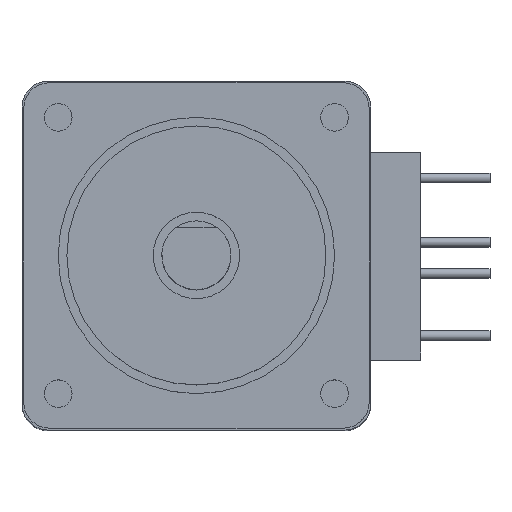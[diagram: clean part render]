
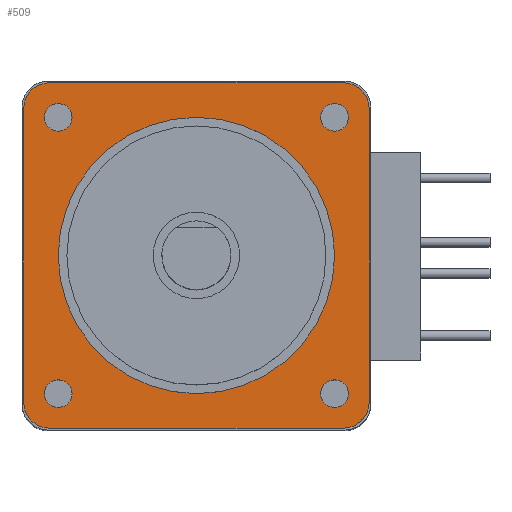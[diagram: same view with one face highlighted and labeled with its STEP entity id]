
A CAD part, top view. The second image highlights one B-rep face of the part: STEP entity #509.
In plain terms, the highlighted planar face has unit normal (0, 0, 1).
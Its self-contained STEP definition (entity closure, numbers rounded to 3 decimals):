
#201=PLANE('',#3352);
#509=ADVANCED_FACE('',(#719,#720,#721,#722,#723,#724),#201,.F.);
#719=FACE_BOUND('',#828,.T.);
#720=FACE_BOUND('',#829,.T.);
#721=FACE_BOUND('',#830,.T.);
#722=FACE_BOUND('',#831,.T.);
#723=FACE_BOUND('',#832,.T.);
#724=FACE_BOUND('',#833,.T.);
#828=EDGE_LOOP('',(#1243));
#829=EDGE_LOOP('',(#1244));
#830=EDGE_LOOP('',(#1245));
#831=EDGE_LOOP('',(#1246));
#832=EDGE_LOOP('',(#1247,#1248,#1249,#1250,#1251,#1252,#1253,#1254));
#833=EDGE_LOOP('',(#1255));
#1041=CIRCLE('',#3323,1.5);
#1043=CIRCLE('',#3328,1.5);
#1050=CIRCLE('',#3341,8.);
#1052=CIRCLE('',#3346,0.8);
#1053=CIRCLE('',#3347,0.8);
#1054=CIRCLE('',#3348,0.8);
#1055=CIRCLE('',#3349,0.8);
#1056=CIRCLE('',#3350,1.5);
#1057=CIRCLE('',#3351,1.5);
#1243=ORIENTED_EDGE('',*,*,#2379,.T.);
#1244=ORIENTED_EDGE('',*,*,#2380,.T.);
#1245=ORIENTED_EDGE('',*,*,#2381,.T.);
#1246=ORIENTED_EDGE('',*,*,#2382,.T.);
#1247=ORIENTED_EDGE('',*,*,#2271,.F.);
#1248=ORIENTED_EDGE('',*,*,#2353,.T.);
#1249=ORIENTED_EDGE('',*,*,#2359,.F.);
#1250=ORIENTED_EDGE('',*,*,#2383,.T.);
#1251=ORIENTED_EDGE('',*,*,#2366,.F.);
#1252=ORIENTED_EDGE('',*,*,#2370,.T.);
#1253=ORIENTED_EDGE('',*,*,#2346,.F.);
#1254=ORIENTED_EDGE('',*,*,#2384,.T.);
#1255=ORIENTED_EDGE('',*,*,#2377,.T.);
#1968=VERTEX_POINT('',#4416);
#1969=VERTEX_POINT('',#4418);
#2042=VERTEX_POINT('',#4582);
#2043=VERTEX_POINT('',#4584);
#2047=VERTEX_POINT('',#4595);
#2053=VERTEX_POINT('',#4608);
#2058=VERTEX_POINT('',#4621);
#2059=VERTEX_POINT('',#4623);
#2067=VERTEX_POINT('',#4649);
#2069=VERTEX_POINT('',#4656);
#2070=VERTEX_POINT('',#4658);
#2071=VERTEX_POINT('',#4660);
#2072=VERTEX_POINT('',#4662);
#2271=EDGE_CURVE('',#1968,#1969,#2696,.T.);
#2346=EDGE_CURVE('',#2042,#2043,#2750,.T.);
#2353=EDGE_CURVE('',#1968,#2047,#1041,.T.);
#2359=EDGE_CURVE('',#2053,#2047,#2760,.T.);
#2366=EDGE_CURVE('',#2058,#2059,#2767,.T.);
#2370=EDGE_CURVE('',#2058,#2043,#1043,.T.);
#2377=EDGE_CURVE('',#2067,#2067,#1050,.T.);
#2379=EDGE_CURVE('',#2069,#2069,#1052,.T.);
#2380=EDGE_CURVE('',#2070,#2070,#1053,.T.);
#2381=EDGE_CURVE('',#2071,#2071,#1054,.T.);
#2382=EDGE_CURVE('',#2072,#2072,#1055,.T.);
#2383=EDGE_CURVE('',#2053,#2059,#1056,.T.);
#2384=EDGE_CURVE('',#2042,#1969,#1057,.T.);
#2696=LINE('',#4417,#2989);
#2750=LINE('',#4583,#3043);
#2760=LINE('',#4609,#3053);
#2767=LINE('',#4622,#3060);
#2989=VECTOR('',#3574,1.);
#3043=VECTOR('',#3704,1.);
#3053=VECTOR('',#3724,1.);
#3060=VECTOR('',#3733,1.);
#3323=AXIS2_PLACEMENT_3D('',#4596,#3715,#3716);
#3328=AXIS2_PLACEMENT_3D('',#4629,#3740,#3741);
#3341=AXIS2_PLACEMENT_3D('',#4648,#3766,#3767);
#3346=AXIS2_PLACEMENT_3D('',#4655,#3776,#3777);
#3347=AXIS2_PLACEMENT_3D('',#4657,#3778,#3779);
#3348=AXIS2_PLACEMENT_3D('',#4659,#3780,#3781);
#3349=AXIS2_PLACEMENT_3D('',#4661,#3782,#3783);
#3350=AXIS2_PLACEMENT_3D('',#4663,#3784,#3785);
#3351=AXIS2_PLACEMENT_3D('',#4664,#3786,#3787);
#3352=AXIS2_PLACEMENT_3D('',#4665,#3788,#3789);
#3574=DIRECTION('',(0.,-1.,0.));
#3704=DIRECTION('',(-1.,0.,0.));
#3715=DIRECTION('',(0.,0.,1.));
#3716=DIRECTION('',(-1.,0.,0.));
#3724=DIRECTION('',(1.,0.,0.));
#3733=DIRECTION('',(0.,1.,0.));
#3740=DIRECTION('',(0.,0.,1.));
#3741=DIRECTION('',(-1.,0.,0.));
#3766=DIRECTION('',(0.,0.,-1.));
#3767=DIRECTION('',(1.,0.,0.));
#3776=DIRECTION('',(0.,0.,-1.));
#3777=DIRECTION('',(-1.,0.,0.));
#3778=DIRECTION('',(0.,0.,-1.));
#3779=DIRECTION('',(-1.,0.,0.));
#3780=DIRECTION('',(0.,0.,-1.));
#3781=DIRECTION('',(-1.,0.,0.));
#3782=DIRECTION('',(0.,0.,-1.));
#3783=DIRECTION('',(-1.,0.,0.));
#3784=DIRECTION('',(0.,0.,1.));
#3785=DIRECTION('',(-1.,0.,0.));
#3786=DIRECTION('',(0.,0.,1.));
#3787=DIRECTION('',(-1.,0.,0.));
#3788=DIRECTION('',(0.,0.,-1.));
#3789=DIRECTION('',(-1.,0.,0.));
#4416=CARTESIAN_POINT('',(10.,8.5,0.));
#4417=CARTESIAN_POINT('',(10.,10.,0.));
#4418=CARTESIAN_POINT('',(10.,-8.5,0.));
#4582=CARTESIAN_POINT('',(8.5,-10.,0.));
#4583=CARTESIAN_POINT('',(10.,-10.,0.));
#4584=CARTESIAN_POINT('',(-8.5,-10.,0.));
#4595=CARTESIAN_POINT('',(8.5,10.,0.));
#4596=CARTESIAN_POINT('',(8.5,8.5,0.));
#4608=CARTESIAN_POINT('',(-8.5,10.,0.));
#4609=CARTESIAN_POINT('',(-10.,10.,0.));
#4621=CARTESIAN_POINT('',(-10.,-8.5,0.));
#4622=CARTESIAN_POINT('',(-10.,-10.,0.));
#4623=CARTESIAN_POINT('',(-10.,8.5,0.));
#4629=CARTESIAN_POINT('',(-8.5,-8.5,0.));
#4648=CARTESIAN_POINT('',(0.,0.,0.));
#4649=CARTESIAN_POINT('',(8.,0.,0.));
#4655=CARTESIAN_POINT('',(8.,8.,0.));
#4656=CARTESIAN_POINT('',(7.2,8.,0.));
#4657=CARTESIAN_POINT('',(8.,-8.,0.));
#4658=CARTESIAN_POINT('',(7.2,-8.,0.));
#4659=CARTESIAN_POINT('',(-8.,8.,0.));
#4660=CARTESIAN_POINT('',(-8.8,8.,0.));
#4661=CARTESIAN_POINT('',(-8.,-8.,0.));
#4662=CARTESIAN_POINT('',(-8.8,-8.,0.));
#4663=CARTESIAN_POINT('',(-8.5,8.5,0.));
#4664=CARTESIAN_POINT('',(8.5,-8.5,0.));
#4665=CARTESIAN_POINT('',(-10.,10.,0.));
